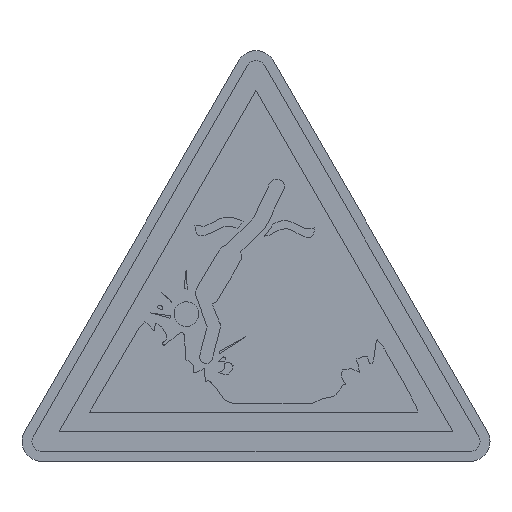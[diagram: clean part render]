
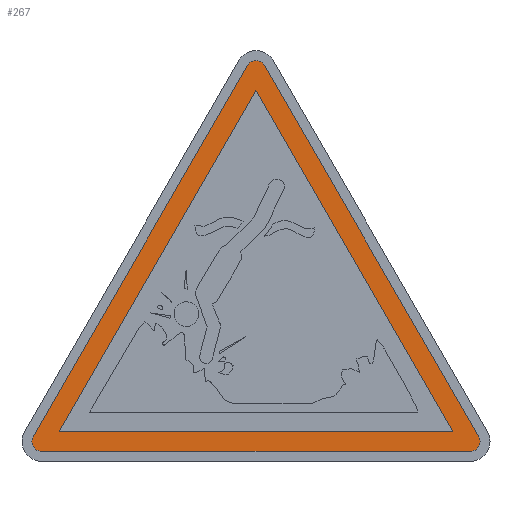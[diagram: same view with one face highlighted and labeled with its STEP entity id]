
A CAD part, top view. The second image highlights one B-rep face of the part: STEP entity #267.
In plain terms, the highlighted planar face has unit normal (0, 0, 1).
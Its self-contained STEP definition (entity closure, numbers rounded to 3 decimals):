
#99 = DIRECTION ( 'NONE',  ( 0., 0., 1. ) ) ;
#267 = ADVANCED_FACE ( 'NONE', ( #491, #9606 ), #8771, .T. ) ;
#282 = CARTESIAN_POINT ( 'NONE',  ( 22.402, 2.5, 0.22 ) ) ;
#310 = CARTESIAN_POINT ( 'NONE',  ( -21.536, 1., 0.22 ) ) ;
#432 = EDGE_CURVE ( 'NONE', #1858, #4461, #1751, .T. ) ;
#491 = FACE_OUTER_BOUND ( 'NONE', #1497, .T. ) ;
#560 = DIRECTION ( 'NONE',  ( 1., 0., 0. ) ) ;
#618 = VERTEX_POINT ( 'NONE', #282 ) ;
#832 = ORIENTED_EDGE ( 'NONE', *, *, #2434, .T. ) ;
#951 = EDGE_CURVE ( 'NONE', #9543, #1328, #9662, .T. ) ;
#1165 = VERTEX_POINT ( 'NONE', #10668 ) ;
#1172 = CARTESIAN_POINT ( 'NONE',  ( 0., 37.301, 0.22 ) ) ;
#1289 = EDGE_CURVE ( 'NONE', #4461, #1165, #3612, .T. ) ;
#1328 = VERTEX_POINT ( 'NONE', #1172 ) ;
#1350 = CARTESIAN_POINT ( 'NONE',  ( 19.804, 3., 0.22 ) ) ;
#1432 = VECTOR ( 'NONE', #7105, 1000. ) ;
#1487 = EDGE_CURVE ( 'NONE', #618, #2815, #4145, .T. ) ;
#1497 = EDGE_LOOP ( 'NONE', ( #4151, #3202, #1565, #7271, #832, #9316 ) ) ;
#1565 = ORIENTED_EDGE ( 'NONE', *, *, #432, .T. ) ;
#1579 = DIRECTION ( 'NONE',  ( 1., 0., 0. ) ) ;
#1751 = CIRCLE ( 'NONE', #3990, 1. ) ;
#1858 = VERTEX_POINT ( 'NONE', #5536 ) ;
#1898 = VECTOR ( 'NONE', #2802, 1000. ) ;
#2434 = EDGE_CURVE ( 'NONE', #1165, #618, #2904, .T. ) ;
#2488 = DIRECTION ( 'NONE',  ( 1., 0., 0. ) ) ;
#2747 = DIRECTION ( 'NONE',  ( -0.5, -0.866, 0. ) ) ;
#2802 = DIRECTION ( 'NONE',  ( 1., 0., 0. ) ) ;
#2815 = VERTEX_POINT ( 'NONE', #5603 ) ;
#2822 = AXIS2_PLACEMENT_3D ( 'NONE', #4377, #99, #3400 ) ;
#2904 = CIRCLE ( 'NONE', #7388, 1. ) ;
#3202 = ORIENTED_EDGE ( 'NONE', *, *, #10165, .T. ) ;
#3400 = DIRECTION ( 'NONE',  ( 1., 0., 0. ) ) ;
#3576 = ORIENTED_EDGE ( 'NONE', *, *, #7969, .F. ) ;
#3612 = LINE ( 'NONE', #310, #1898 ) ;
#3691 = EDGE_LOOP ( 'NONE', ( #10635, #3576, #6946 ) ) ;
#3966 = CARTESIAN_POINT ( 'NONE',  ( -21.536, 2., 0.22 ) ) ;
#3990 = AXIS2_PLACEMENT_3D ( 'NONE', #3966, #6465, #1579 ) ;
#4145 = LINE ( 'NONE', #9066, #9144 ) ;
#4151 = ORIENTED_EDGE ( 'NONE', *, *, #5997, .T. ) ;
#4363 = DIRECTION ( 'NONE',  ( 0., 0., 1. ) ) ;
#4377 = CARTESIAN_POINT ( 'NONE',  ( 0., 39.301, 0.22 ) ) ;
#4461 = VERTEX_POINT ( 'NONE', #5602 ) ;
#5156 = DIRECTION ( 'NONE',  ( -0.5, -0.866, 0. ) ) ;
#5536 = CARTESIAN_POINT ( 'NONE',  ( -22.402, 2.5, 0.22 ) ) ;
#5602 = CARTESIAN_POINT ( 'NONE',  ( -21.536, 1., 0.22 ) ) ;
#5603 = CARTESIAN_POINT ( 'NONE',  ( 0.866, 39.801, 0.22 ) ) ;
#5937 = CIRCLE ( 'NONE', #2822, 1. ) ;
#5977 = CARTESIAN_POINT ( 'NONE',  ( -19.804, 3., 0.22 ) ) ;
#5997 = EDGE_CURVE ( 'NONE', #2815, #6890, #5937, .T. ) ;
#6465 = DIRECTION ( 'NONE',  ( 0., 0., 1. ) ) ;
#6703 = VECTOR ( 'NONE', #10143, 1000. ) ;
#6837 = LINE ( 'NONE', #5977, #6703 ) ;
#6841 = CARTESIAN_POINT ( 'NONE',  ( 19.804, 3., 0.22 ) ) ;
#6842 = VECTOR ( 'NONE', #2747, 1000. ) ;
#6890 = VERTEX_POINT ( 'NONE', #8985 ) ;
#6920 = CARTESIAN_POINT ( 'NONE',  ( -19.804, 3., 0.22 ) ) ;
#6946 = ORIENTED_EDGE ( 'NONE', *, *, #951, .F. ) ;
#7105 = DIRECTION ( 'NONE',  ( -0.5, 0.866, 0. ) ) ;
#7229 = DIRECTION ( 'NONE',  ( 0., 0., 1. ) ) ;
#7271 = ORIENTED_EDGE ( 'NONE', *, *, #1289, .T. ) ;
#7308 = CARTESIAN_POINT ( 'NONE',  ( 0., 39.301, 0.22 ) ) ;
#7314 = LINE ( 'NONE', #7639, #8618 ) ;
#7388 = AXIS2_PLACEMENT_3D ( 'NONE', #8685, #7229, #560 ) ;
#7447 = DIRECTION ( 'NONE',  ( -0.5, 0.866, 0. ) ) ;
#7629 = EDGE_CURVE ( 'NONE', #8370, #9543, #6837, .T. ) ;
#7639 = CARTESIAN_POINT ( 'NONE',  ( 0., 37.301, 0.22 ) ) ;
#7906 = CARTESIAN_POINT ( 'NONE',  ( -0.866, 39.801, 0.22 ) ) ;
#7969 = EDGE_CURVE ( 'NONE', #1328, #8370, #7314, .T. ) ;
#8370 = VERTEX_POINT ( 'NONE', #6920 ) ;
#8618 = VECTOR ( 'NONE', #5156, 1000. ) ;
#8685 = CARTESIAN_POINT ( 'NONE',  ( 21.536, 2., 0.22 ) ) ;
#8698 = LINE ( 'NONE', #7906, #6842 ) ;
#8771 = PLANE ( 'NONE',  #9735 ) ;
#8985 = CARTESIAN_POINT ( 'NONE',  ( -0.866, 39.801, 0.22 ) ) ;
#9066 = CARTESIAN_POINT ( 'NONE',  ( 22.402, 2.5, 0.22 ) ) ;
#9144 = VECTOR ( 'NONE', #7447, 1000. ) ;
#9316 = ORIENTED_EDGE ( 'NONE', *, *, #1487, .T. ) ;
#9543 = VERTEX_POINT ( 'NONE', #6841 ) ;
#9606 = FACE_BOUND ( 'NONE', #3691, .T. ) ;
#9662 = LINE ( 'NONE', #1350, #1432 ) ;
#9735 = AXIS2_PLACEMENT_3D ( 'NONE', #7308, #4363, #2488 ) ;
#10143 = DIRECTION ( 'NONE',  ( 1., 0., 0. ) ) ;
#10165 = EDGE_CURVE ( 'NONE', #6890, #1858, #8698, .T. ) ;
#10635 = ORIENTED_EDGE ( 'NONE', *, *, #7629, .F. ) ;
#10668 = CARTESIAN_POINT ( 'NONE',  ( 21.536, 1., 0.22 ) ) ;
